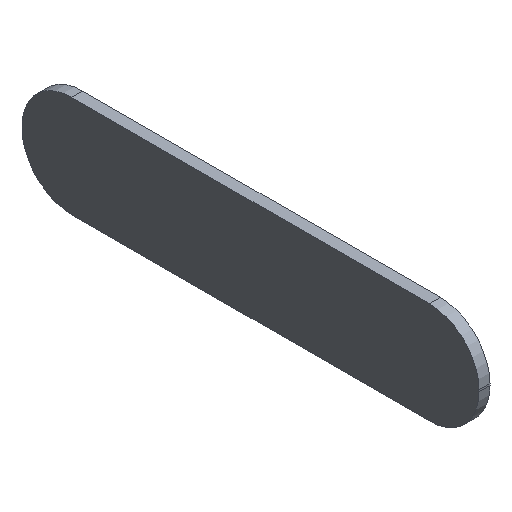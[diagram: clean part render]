
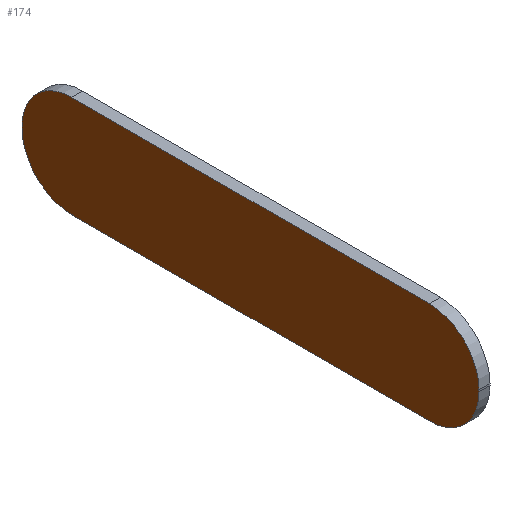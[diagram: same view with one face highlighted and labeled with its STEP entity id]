
A CAD part, isometric view. The second image highlights one B-rep face of the part: STEP entity #174.
In plain terms, the highlighted planar face has unit normal (-1, 0, 0).
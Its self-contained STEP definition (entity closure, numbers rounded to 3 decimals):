
#15=PLANE('',#200);
#22=FACE_OUTER_BOUND('',#32,.T.);
#32=EDGE_LOOP('',(#125,#126,#127,#128,#129,#130,#131,#132));
#42=CIRCLE('',#199,5.9);
#43=CIRCLE('',#201,5.9);
#44=CIRCLE('',#202,5.9);
#45=CIRCLE('',#203,5.9);
#51=LINE('',#281,#67);
#52=LINE('',#285,#68);
#53=LINE('',#289,#69);
#54=LINE('',#292,#70);
#67=VECTOR('',#227,10.);
#68=VECTOR('',#230,10.);
#69=VECTOR('',#233,10.);
#70=VECTOR('',#236,10.);
#82=VERTEX_POINT('',#272);
#84=VERTEX_POINT('',#276);
#85=VERTEX_POINT('',#280);
#86=VERTEX_POINT('',#282);
#87=VERTEX_POINT('',#284);
#88=VERTEX_POINT('',#286);
#89=VERTEX_POINT('',#288);
#90=VERTEX_POINT('',#290);
#100=EDGE_CURVE('',#82,#84,#42,.T.);
#101=EDGE_CURVE('',#84,#85,#51,.T.);
#102=EDGE_CURVE('',#85,#86,#43,.T.);
#103=EDGE_CURVE('',#87,#86,#52,.T.);
#104=EDGE_CURVE('',#87,#88,#44,.T.);
#105=EDGE_CURVE('',#89,#88,#53,.T.);
#106=EDGE_CURVE('',#89,#90,#45,.T.);
#107=EDGE_CURVE('',#82,#90,#54,.T.);
#125=ORIENTED_EDGE('',*,*,#100,.T.);
#126=ORIENTED_EDGE('',*,*,#101,.T.);
#127=ORIENTED_EDGE('',*,*,#102,.T.);
#128=ORIENTED_EDGE('',*,*,#103,.F.);
#129=ORIENTED_EDGE('',*,*,#104,.T.);
#130=ORIENTED_EDGE('',*,*,#105,.F.);
#131=ORIENTED_EDGE('',*,*,#106,.T.);
#132=ORIENTED_EDGE('',*,*,#107,.F.);
#174=ADVANCED_FACE('',(#22),#15,.F.);
#199=AXIS2_PLACEMENT_3D('',#278,#223,#224);
#200=AXIS2_PLACEMENT_3D('',#279,#225,#226);
#201=AXIS2_PLACEMENT_3D('',#283,#228,#229);
#202=AXIS2_PLACEMENT_3D('',#287,#231,#232);
#203=AXIS2_PLACEMENT_3D('',#291,#234,#235);
#223=DIRECTION('center_axis',(-1.,0.,0.));
#224=DIRECTION('ref_axis',(0.,0.,-1.));
#225=DIRECTION('center_axis',(1.,0.,0.));
#226=DIRECTION('ref_axis',(0.,0.,-1.));
#227=DIRECTION('',(0.,0.,-1.));
#228=DIRECTION('center_axis',(-1.,0.,0.));
#229=DIRECTION('ref_axis',(0.,0.,-1.));
#230=DIRECTION('',(0.,1.,0.));
#231=DIRECTION('center_axis',(-1.,0.,0.));
#232=DIRECTION('ref_axis',(0.,0.,-1.));
#233=DIRECTION('',(0.,0.,-1.));
#234=DIRECTION('center_axis',(-1.,0.,0.));
#235=DIRECTION('ref_axis',(0.,0.,-1.));
#236=DIRECTION('',(0.,-1.,0.));
#272=CARTESIAN_POINT('',(-41.9,33.1,-6.));
#276=CARTESIAN_POINT('',(-41.9,39.,-11.9));
#278=CARTESIAN_POINT('Origin',(-41.9,33.1,-11.9));
#279=CARTESIAN_POINT('Origin',(-41.9,12.,-12.));
#280=CARTESIAN_POINT('',(-41.9,39.,-12.1));
#281=CARTESIAN_POINT('',(-41.9,39.,-12.));
#282=CARTESIAN_POINT('',(-41.9,33.1,-18.));
#283=CARTESIAN_POINT('Origin',(-41.9,33.1,-12.1));
#284=CARTESIAN_POINT('',(-41.9,-9.1,-18.));
#285=CARTESIAN_POINT('',(-41.9,12.,-18.));
#286=CARTESIAN_POINT('',(-41.9,-15.,-12.1));
#287=CARTESIAN_POINT('Origin',(-41.9,-9.1,-12.1));
#288=CARTESIAN_POINT('',(-41.9,-15.,-11.9));
#289=CARTESIAN_POINT('',(-41.9,-15.,-12.));
#290=CARTESIAN_POINT('',(-41.9,-9.1,-6.));
#291=CARTESIAN_POINT('Origin',(-41.9,-9.1,-11.9));
#292=CARTESIAN_POINT('',(-41.9,12.,-6.));
